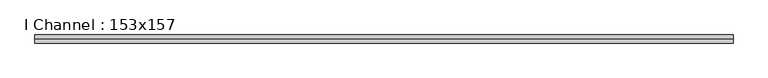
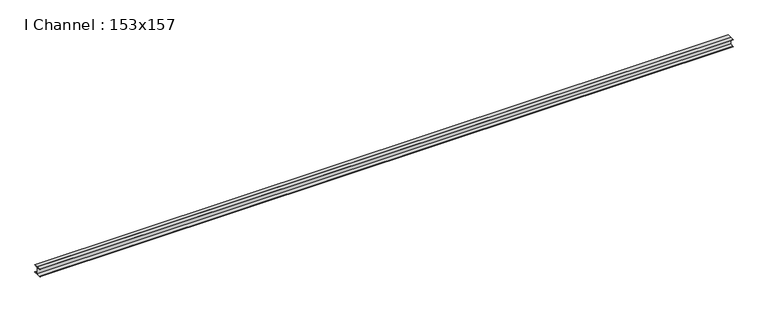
"""IFC4 building model written with IfcOpenShell, lengths in millimetres: beam geometry, I Channel : 153x157."""

import ifcopenshell
import ifcopenshell.guid

model = None  # the IFC model being written
_history = None  # IfcOwnerHistory: only IFC2X3 demands one
_inside = {}  # id of a spatial element -> (the spatial element, [elements in it])
_under = {}  # id of a project, library or spatial element -> (it, [spatial elements below it])
_declared = {}  # id of a project -> (the project, [libraries it declares])
_typed = {}  # id of a type object -> (the type object, [elements of that type])
_made_of = {}  # id of a material, layer set ... -> (it, [elements and type objects made of it])


def new_model(schema):
    """Start an empty IFC model of exactly this schema.

    Asked for "IFC4X3", IfcOpenShell would pick the latest addendum, in which some entities
    have other attributes; the version numbers below select the first issue.
    IFC2X3 requires an IfcOwnerHistory on every rooted entity: one is made here for all.
    """
    global model, _history
    if schema == "IFC4X3":
        model = ifcopenshell.file(schema_version=(4, 3, 0, 0))
    else:
        model = ifcopenshell.file(schema=schema)
    _inside.clear()
    _under.clear()
    _declared.clear()
    _typed.clear()
    _made_of.clear()
    _history = None
    if model.schema == "IFC2X3":
        org = make("IfcOrganization", Name="unknown")
        user = make(
            "IfcPersonAndOrganization",
            ThePerson=make("IfcPerson", FamilyName="unknown"),
            TheOrganization=org,
        )
        app = make(
            "IfcApplication",
            ApplicationDeveloper=org,
            Version="unknown",
            ApplicationFullName="unknown",
            ApplicationIdentifier="unknown",
        )
        _history = make(
            "IfcOwnerHistory",
            OwningUser=user,
            OwningApplication=app,
            ChangeAction="ADDED",
            CreationDate=0,
        )
    return model


def make(cls, **values):
    """One entity of the class cls with the attributes given. An attribute that is None is left unset."""
    return model.create_entity(
        cls, **{name: value for name, value in values.items() if value is not None}
    )


def rooted(cls, **values):
    """An entity with a GlobalId (a new one), such as an element, a storey or a relation."""
    return make(cls, GlobalId=ifcopenshell.guid.new(), OwnerHistory=_history, **values)


def si_unit(unit_type, name, prefix=None):
    """IfcSIUnit, for example si_unit("LENGTHUNIT", "METRE", prefix="MILLI")."""
    return make("IfcSIUnit", UnitType=unit_type, Prefix=prefix, Name=name)


def assignment(units):
    """IfcUnitAssignment: the units of a project."""
    return None if units is None else make("IfcUnitAssignment", Units=units)


def point(xyz):
    """IfcCartesianPoint."""
    return None if xyz is None else make("IfcCartesianPoint", Coordinates=xyz)


def direction(xyz):
    """IfcDirection."""
    return None if xyz is None else make("IfcDirection", DirectionRatios=xyz)


def frame(location, z_axis=None, x_axis=None):
    """IfcAxis2Placement3D, a coordinate frame: its origin and axes. An axis left out is left unset."""
    return make(
        "IfcAxis2Placement3D",
        Location=point(location),
        Axis=direction(z_axis),
        RefDirection=direction(x_axis),
    )


def frame_2d(location, x_axis=None):
    """IfcAxis2Placement2D, a coordinate frame in the plane: its origin and x axis."""
    return make(
        "IfcAxis2Placement2D", Location=point(location), RefDirection=direction(x_axis)
    )


def origin():
    """The frame at (0, 0, 0) with its axes left unset."""
    return frame((0.0, 0.0, 0.0))


def place(relative_to, where):
    """IfcLocalPlacement: puts the frame where relative to a parent placement (None: the world)."""
    return make(
        "IfcLocalPlacement", PlacementRelTo=relative_to, RelativePlacement=where
    )


def context(
    kind, dimensions, precision=None, world=None, true_north=None, identifier=None
):
    """IfcGeometricRepresentationContext, for example the 3D "Model" context."""
    return make(
        "IfcGeometricRepresentationContext",
        ContextIdentifier=identifier,
        ContextType=kind,
        CoordinateSpaceDimension=dimensions,
        Precision=precision,
        WorldCoordinateSystem=world,
        TrueNorth=true_north,
    )


def project(units=None, contexts=None):
    """IfcProject with its units and contexts."""
    return rooted(
        "IfcProject",
        Name="project",
        RepresentationContexts=contexts,
        UnitsInContext=assignment(units),
    )


def spatial(cls, under=None, at=None, **own):
    """A site, building, storey or space (cls), placed at a placement, below another one or the project."""
    s = rooted(cls, ObjectPlacement=at, **own)
    if under is not None:
        _under.setdefault(under.id(), (under, []))[1].append(s)
    return s


def polyline(points):
    """IfcPolyline through the points."""
    return make("IfcPolyline", Points=[point(p) for p in points])


def circle_curve(where, radius):
    """IfcCircle in the frame where."""
    return make("IfcCircle", Position=where, Radius=radius)


def trimmed(basis, trim1, trim2, sense, master):
    """IfcTrimmedCurve: the piece of a basis curve between two trims."""
    return make(
        "IfcTrimmedCurve",
        BasisCurve=basis,
        Trim1=trim1,
        Trim2=trim2,
        SenseAgreement=sense,
        MasterRepresentation=master,
    )


def segment(curve, same_sense, transition):
    """IfcCompositeCurveSegment."""
    return make(
        "IfcCompositeCurveSegment",
        Transition=transition,
        SameSense=same_sense,
        ParentCurve=curve,
    )


def composite_curve(segments, self_intersect=None):
    """IfcCompositeCurve: segments joined end to end."""
    return make("IfcCompositeCurve", Segments=segments, SelfIntersect=self_intersect)


def outline(outer, holes=None, kind="AREA"):
    """IfcArbitraryClosedProfileDef: a profile drawn as a closed curve; with holes, ...WithVoids."""
    if holes is None:
        return make("IfcArbitraryClosedProfileDef", ProfileType=kind, OuterCurve=outer)
    return make(
        "IfcArbitraryProfileDefWithVoids",
        ProfileType=kind,
        OuterCurve=outer,
        InnerCurves=holes,
    )


def extrude(swept, where, along, depth):
    """IfcExtrudedAreaSolid: the profile swept, set in the frame where, extruded along a direction by depth."""
    return make(
        "IfcExtrudedAreaSolid",
        SweptArea=swept,
        Position=where,
        ExtrudedDirection=direction(along),
        Depth=depth,
    )


def shape(context_of_items, identifier, shape_type, items):
    """IfcShapeRepresentation: the items that make up one representation, for example the "Body"."""
    return make(
        "IfcShapeRepresentation",
        ContextOfItems=context_of_items,
        RepresentationIdentifier=identifier,
        RepresentationType=shape_type,
        Items=items,
    )


def source(mapping_origin, context_of_items, identifier, shape_type, items):
    """IfcRepresentationMap: a shape defined once, which mapped items show again and again."""
    return make(
        "IfcRepresentationMap",
        MappingOrigin=mapping_origin,
        MappedRepresentation=shape(context_of_items, identifier, shape_type, items),
    )


def transform(
    local_origin,
    x_axis=None,
    y_axis=None,
    z_axis=None,
    scale=None,
    scale2=None,
    scale3=None,
    uniform=True,
):
    """IfcCartesianTransformationOperator3D, or its non-uniform kind. x_axis, y_axis, z_axis: its Axis1, 2, 3."""
    if uniform:
        return make(
            "IfcCartesianTransformationOperator3D",
            Axis1=direction(x_axis),
            Axis2=direction(y_axis),
            LocalOrigin=point(local_origin),
            Scale=scale,
            Axis3=direction(z_axis),
        )
    return make(
        "IfcCartesianTransformationOperator3DnonUniform",
        Axis1=direction(x_axis),
        Axis2=direction(y_axis),
        LocalOrigin=point(local_origin),
        Scale=scale,
        Axis3=direction(z_axis),
        Scale2=scale2,
        Scale3=scale3,
    )


def mapped(mapping_source, mapping_target):
    """IfcMappedItem: shows the shape of a source again, moved by a transform."""
    return make(
        "IfcMappedItem", MappingSource=mapping_source, MappingTarget=mapping_target
    )


def made_of(thing, what):
    """Note that an element or type object is made of a material, layer set ...; save() writes the relation."""
    if what is not None:
        _made_of.setdefault(what.id(), (what, []))[1].append(thing)
    return thing


def element(
    cls,
    number,
    at=None,
    inside=None,
    cuts=None,
    type_object=None,
    material=None,
    context=None,
    identifier="Body",
    shape_type=None,
    held_by="IfcProductDefinitionShape",
    body=None,
    shapes=None,
    **own,
):
    """One element of the class cls, such as IfcWall. Its Tag is "e" and its number.

    at: its placement. inside: the storey or other place that contains it. cuts: it is an
    opening in that element (IfcRelVoidsElement). A single representation is given by context,
    identifier, shape_type and body (its items); several are given by shapes. held_by: the class
    of the entity that holds the representations. save() writes the other relations.
    """
    e = rooted(cls, Tag="e%d" % number, ObjectPlacement=at, **own)
    if body is not None:
        shapes = [shape(context, identifier, shape_type, body)]
    if shapes is not None:
        e.Representation = make(held_by, Representations=shapes)
    if inside is not None:
        _inside.setdefault(inside.id(), (inside, []))[1].append(e)
    if cuts is not None:
        rooted(
            "IfcRelVoidsElement", RelatingBuildingElement=cuts, RelatedOpeningElement=e
        )
    if type_object is not None:
        _typed.setdefault(type_object.id(), (type_object, []))[1].append(e)
    return made_of(e, material)


def aggregate(whole, parts):
    """IfcRelAggregates: a whole, such as a stair, and the parts it consists of."""
    return rooted("IfcRelAggregates", RelatingObject=whole, RelatedObjects=parts)


def save(model, path):
    """Write the relations noted so far, then the file.

    IfcRelAggregates (storeys below a building ...), IfcRelContainedInSpatialStructure (elements
    in a storey), IfcRelDefinesByType, IfcRelAssociatesMaterial and IfcRelDeclares: one each for
    every whole, place, type object, material and project.
    """
    for whole, parts in _under.values():
        aggregate(whole, parts)
    for where, things in _inside.values():
        rooted(
            "IfcRelContainedInSpatialStructure",
            RelatedElements=things,
            RelatingStructure=where,
        )
    for kind, things in _typed.values():
        rooted("IfcRelDefinesByType", RelatedObjects=things, RelatingType=kind)
    for what, things in _made_of.values():
        rooted("IfcRelAssociatesMaterial", RelatedObjects=things, RelatingMaterial=what)
    for by, libraries in _declared.values():
        rooted("IfcRelDeclares", RelatingContext=by, RelatedDefinitions=libraries)
    model.write(path)


def i_channel_153x157_1de0439f(model_context):
    return source(origin(), model_context, "Body", "SweptSolid", [
        extrude(outline(composite_curve([segment(polyline([(0.0, 76.5), (78.5, 76.5)]), True, "CONTINUOUS"), segment(trimmed(circle_curve(frame_2d((71.0, 76.5)), 7.5), [point((78.5, 76.5))], [point((71.0, 69.0))], False, "CARTESIAN"), True, "CONTINUOUS"), segment(polyline([(71.0, 69.0), (3.2, 58.2615349), (3.2, -58.2615349), (71.0, -69.0)]), True, "CONTINUOUS"), segment(trimmed(circle_curve(frame_2d((71.0, -76.5)), 7.5), [point((71.0, -69.0))], [point((78.5, -76.5))], False, "CARTESIAN"), True, "CONTINUOUS"), segment(polyline([(78.5, -76.5), (0.0, -76.5), (0.0, 76.5)]), True, "CONTINUOUS")], self_intersect=False)), frame((-3134.5502665, 0.0, 0.0), z_axis=(1.0, 0.0, 0.0), x_axis=(0.0, 1.0, 0.0)), (0.0, 0.0, 1.0), 13517.23),
        extrude(outline(composite_curve([segment(polyline([(0.0, 76.5), (0.0, -76.5), (-78.5, -76.5)]), True, "CONTINUOUS"), segment(trimmed(circle_curve(frame_2d((-71.0, -76.5)), 7.5), [point((-78.5, -76.5))], [point((-71.0, -69.0))], False, "CARTESIAN"), True, "CONTINUOUS"), segment(polyline([(-71.0, -69.0), (-3.2, -58.2615349), (-3.2, 58.2615349), (-71.0, 69.0)]), True, "CONTINUOUS"), segment(trimmed(circle_curve(frame_2d((-71.0, 76.5)), 7.5), [point((-71.0, 69.0))], [point((-78.5, 76.5))], False, "CARTESIAN"), True, "CONTINUOUS"), segment(polyline([(-78.5, 76.5), (0.0, 76.5)]), True, "CONTINUOUS")], self_intersect=False)), frame((-3134.5502665, 0.0, 0.0), z_axis=(1.0, 0.0, 0.0), x_axis=(0.0, 1.0, 0.0)), (0.0, 0.0, 1.0), 13517.23),
    ])


if __name__ == "__main__":
    model = new_model("IFC4")
    model_context = context("Model", 3, world=origin())
    ifc_project = project(units=[si_unit("LENGTHUNIT", "METRE", prefix="MILLI")], contexts=[model_context])
    site = spatial("IfcSite", under=ifc_project)
    building = spatial("IfcBuilding", under=site)
    placement = place(None, origin())
    i_channel_153x157_shape = i_channel_153x157_1de0439f(model_context)
    element("IfcBeam", 1, ObjectType="I Channel : 153x157", at=placement, inside=building, context=model_context, shape_type="MappedRepresentation", body=[
        mapped(i_channel_153x157_shape, transform((0.0, 0.0, 0.0), x_axis=(1.0, 0.0, 0.0), y_axis=(0.0, 1.0, 0.0), z_axis=(0.0, 0.0, 1.0))),
    ])
    save(model, "model.ifc")
